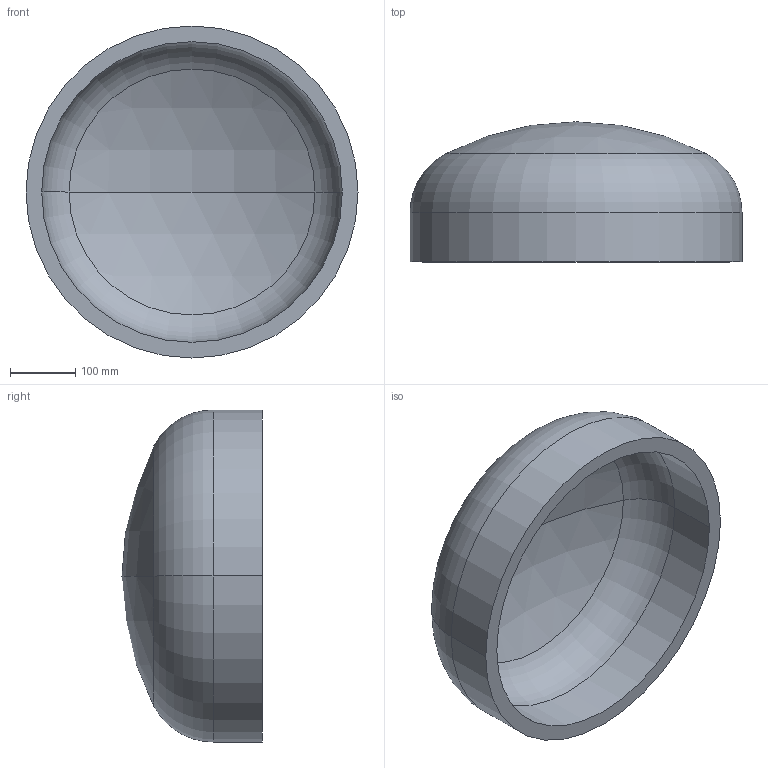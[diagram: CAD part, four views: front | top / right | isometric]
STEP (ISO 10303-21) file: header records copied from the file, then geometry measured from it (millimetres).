
FILE_DESCRIPTION (( 'STEP AP203' ), '1' );
FILE_NAME ('DIN 28013 Korbbogenform_-_Boden DIN 28013 - 508 x 75 - I - s=24.step', '2016-07-01T07:53:22', ( '' ), ( '' ), 'SwSTEP 2.0', 'SolidWorks 2013', '' );
FILE_SCHEMA (( 'CONFIG_CONTROL_DESIGN' ));
Length unit declared in the file: millimetre
Products named in the file (1): DIN 28013 Korbbogenform_-_Boden DIN 28013 - 508 x 75 - I - s=24
Bounding box: 508 x 214.35 x 508 mm (x, y, z)
Volume: 9072877.8 mm3; surface area: 793772.1 mm2
Topology: 1 solids, 1 shells, 13 faces, 24 edges, 14 vertices
Faces by surface type: torus 4, cylinder 4, sphere 4, plane 1
Entity records: 407 total; most frequent: DIRECTION 72, CARTESIAN_POINT 52, ORIENTED_EDGE 48, AXIS2_PLACEMENT_3D 34, EDGE_CURVE 24, CIRCLE 20, VERTEX_POINT 14, EDGE_LOOP 14
